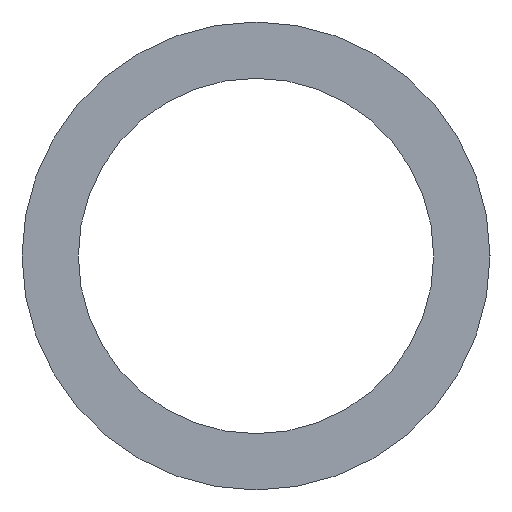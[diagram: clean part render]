
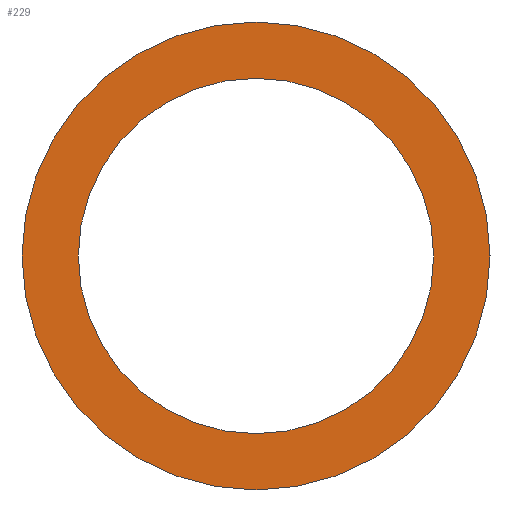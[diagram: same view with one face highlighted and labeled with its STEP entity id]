
A CAD part, left-side view. The second image highlights one B-rep face of the part: STEP entity #229.
In plain terms, the highlighted planar face has unit normal (-1, 0, 0).
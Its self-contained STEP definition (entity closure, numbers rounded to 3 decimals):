
#9 = CARTESIAN_POINT ( 'NONE',  ( 0., 0., 0. ) ) ;
#10 = DIRECTION ( 'NONE',  ( 1., 0., 0. ) ) ;
#11 = DIRECTION ( 'NONE',  ( 0., 0., -1. ) ) ;
#15 = CARTESIAN_POINT ( 'NONE',  ( 0., 0., 0. ) ) ;
#22 = CARTESIAN_POINT ( 'NONE',  ( 0., 0., 0. ) ) ;
#23 = DIRECTION ( 'NONE',  ( 1., 0., 0. ) ) ;
#24 = DIRECTION ( 'NONE',  ( 0., 0., -1. ) ) ;
#26 = FACE_OUTER_BOUND ( 'NONE', #137, .T. ) ;
#27 = FACE_BOUND ( 'NONE', #149, .T. ) ;
#32 = PLANE ( 'NONE',  #202 ) ;
#33 = DIRECTION ( 'NONE',  ( 1., 0., 0. ) ) ;
#34 = DIRECTION ( 'NONE',  ( 0., 0., -1. ) ) ;
#58 = CARTESIAN_POINT ( 'NONE',  ( 0., 0., 0. ) ) ;
#59 = DIRECTION ( 'NONE',  ( 1., 0., 0. ) ) ;
#60 = DIRECTION ( 'NONE',  ( 0., 0., -1. ) ) ;
#62 = CARTESIAN_POINT ( 'NONE',  ( 0., 0., 0. ) ) ;
#63 = DIRECTION ( 'NONE',  ( 1., 0., 0. ) ) ;
#64 = DIRECTION ( 'NONE',  ( 0., 0., -1. ) ) ;
#135 = VERTEX_POINT ( 'NONE', #173 ) ;
#137 = EDGE_LOOP ( 'NONE', ( #172, #169 ) ) ;
#145 = CARTESIAN_POINT ( 'NONE',  ( 0., 0., 27.125 ) ) ;
#146 = CARTESIAN_POINT ( 'NONE',  ( 0., 0., -27.125 ) ) ;
#148 = CARTESIAN_POINT ( 'NONE',  ( 0., 0., -20.6 ) ) ;
#149 = EDGE_LOOP ( 'NONE', ( #176, #174 ) ) ;
#159 = VERTEX_POINT ( 'NONE', #146 ) ;
#162 = VERTEX_POINT ( 'NONE', #145 ) ;
#169 = ORIENTED_EDGE ( 'NONE', *, *, #222, .F. ) ;
#172 = ORIENTED_EDGE ( 'NONE', *, *, #237, .F. ) ;
#173 = CARTESIAN_POINT ( 'NONE',  ( 0., 0., 20.6 ) ) ;
#174 = ORIENTED_EDGE ( 'NONE', *, *, #240, .T. ) ;
#175 = VERTEX_POINT ( 'NONE', #148 ) ;
#176 = ORIENTED_EDGE ( 'NONE', *, *, #225, .T. ) ;
#184 = CIRCLE ( 'NONE', #187, 20.6 ) ;
#187 = AXIS2_PLACEMENT_3D ( 'NONE', #62, #63, #64 ) ;
#188 = AXIS2_PLACEMENT_3D ( 'NONE', #58, #59, #60 ) ;
#192 = CIRCLE ( 'NONE', #188, 27.125 ) ;
#193 = AXIS2_PLACEMENT_3D ( 'NONE', #22, #23, #24 ) ;
#196 = AXIS2_PLACEMENT_3D ( 'NONE', #9, #10, #11 ) ;
#197 = CIRCLE ( 'NONE', #193, 20.6 ) ;
#202 = AXIS2_PLACEMENT_3D ( 'NONE', #15, #33, #34 ) ;
#206 = CIRCLE ( 'NONE', #196, 27.125 ) ;
#222 = EDGE_CURVE ( 'NONE', #159, #162, #206, .T. ) ;
#225 = EDGE_CURVE ( 'NONE', #135, #175, #197, .T. ) ;
#229 = ADVANCED_FACE ( 'NONE', ( #26, #27 ), #32, .F. ) ;
#237 = EDGE_CURVE ( 'NONE', #162, #159, #192, .T. ) ;
#240 = EDGE_CURVE ( 'NONE', #175, #135, #184, .T. ) ;
